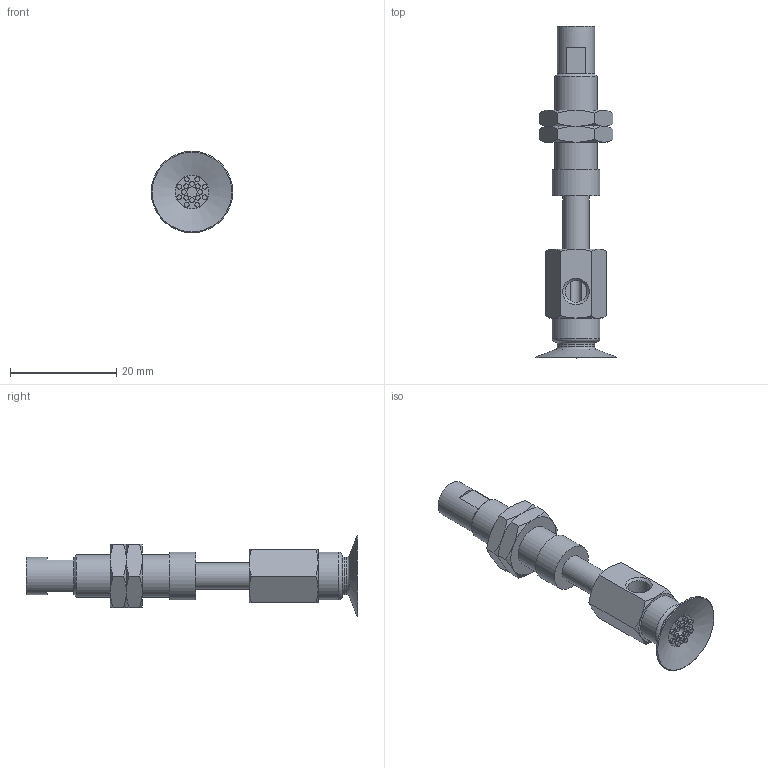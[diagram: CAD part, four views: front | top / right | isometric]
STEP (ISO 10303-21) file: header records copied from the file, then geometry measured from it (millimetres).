
FILE_DESCRIPTION(('STEP AP203'),'1');
FILE_NAME('.stp','2025-02-13T07:43:53',(' '),(' '),'Spatial InterOp 3D',' ',' ');
FILE_SCHEMA(('CONFIG_CONTROL_DESIGN'));
Length unit declared in the file: millimetre
Products named in the file (6): BNABPAYS-15A-10-※; NAPAYS-10A-10--M; NAPAYS-10A-10--F; Nut-10A-S; CONNECTOR-10A-10-PA; BPAG-15A-※_3D
Assembly tree (6 placements, depth 2):
  BNABPAYS-15A-10-※
    NAPAYS-10A-10--M
    NAPAYS-10A-10--F
    Nut-10A-S  x2
    CONNECTOR-10A-10-PA
    BPAG-15A-※_3D
Bounding box: 15.3 x 62.5 x 15.3 mm (x, y, z)
Volume: 3524.6 mm3; surface area: 4405.5 mm2
Topology: 6 solids, 6 shells, 160 faces, 317 edges, 194 vertices
Faces by surface type: plane 67, cone 50, cylinder 34, torus 9
Full cylindrical faces by diameter (mm): 0.9 x16, 2 x2, 4 x2, 4.134 x2, 5 x3, 6 x2, 7 x2, 7.188 x2, 8 x1, 9 x2
Entity records: 3728 total; most frequent: CARTESIAN_POINT 858, DIRECTION 556, ORIENTED_EDGE 416, AXIS2_PLACEMENT_3D 258, EDGE_LOOP 224, EDGE_CURVE 208, FACE_OUTER_BOUND 179, VERTEX_POINT 158
